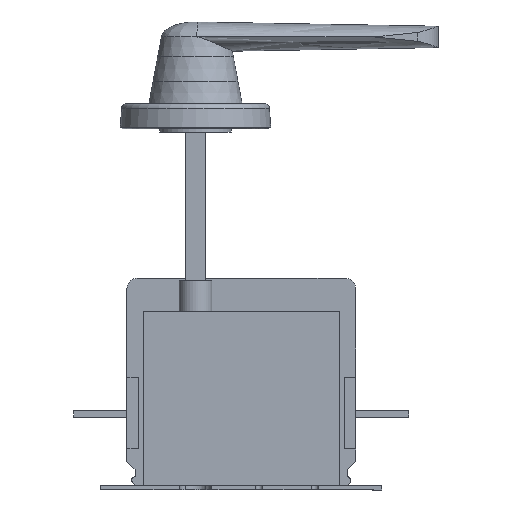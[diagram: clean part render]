
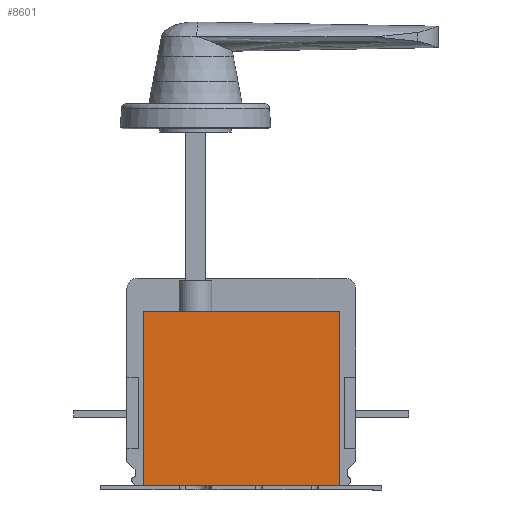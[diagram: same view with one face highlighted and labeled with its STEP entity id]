
A CAD part, left-side view. The second image highlights one B-rep face of the part: STEP entity #8601.
In plain terms, the highlighted planar face has unit normal (-1, 0, 0).
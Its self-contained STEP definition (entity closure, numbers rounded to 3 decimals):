
#1188 = CARTESIAN_POINT ( 'NONE',  ( -104.49, 0., 130.1 ) ) ;
#1228 = LINE ( 'NONE', #1234, #8989 ) ;
#1234 = CARTESIAN_POINT ( 'NONE',  ( -104.49, -60., 130.1 ) ) ;
#1637 = FACE_OUTER_BOUND ( 'NONE', #10028, .T. ) ;
#1818 = ORIENTED_EDGE ( 'NONE', *, *, #2256, .T. ) ;
#1844 = ORIENTED_EDGE ( 'NONE', *, *, #15056, .T. ) ;
#2256 = EDGE_CURVE ( 'NONE', #7076, #9198, #7930, .T. ) ;
#3324 = LINE ( 'NONE', #10356, #15395 ) ;
#3430 = VECTOR ( 'NONE', #10616, 1000. ) ;
#4479 = CARTESIAN_POINT ( 'NONE',  ( -104.49, 60., 110. ) ) ;
#5048 = DIRECTION ( 'NONE',  ( -1., 0., 0. ) ) ;
#5610 = EDGE_CURVE ( 'NONE', #8306, #7076, #9273, .T. ) ;
#6276 = CARTESIAN_POINT ( 'NONE',  ( -104.49, -60., 3.1 ) ) ;
#7076 = VERTEX_POINT ( 'NONE', #8346 ) ;
#7881 = DIRECTION ( 'NONE',  ( 0., -1., 0. ) ) ;
#7930 = LINE ( 'NONE', #10229, #15591 ) ;
#8306 = VERTEX_POINT ( 'NONE', #4479 ) ;
#8346 = CARTESIAN_POINT ( 'NONE',  ( -104.49, 60., 3.1 ) ) ;
#8601 = ADVANCED_FACE ( 'NONE', ( #1637 ), #14486, .T. ) ;
#8989 = VECTOR ( 'NONE', #10618, 1000. ) ;
#9161 = ORIENTED_EDGE ( 'NONE', *, *, #5610, .T. ) ;
#9198 = VERTEX_POINT ( 'NONE', #6276 ) ;
#9263 = CARTESIAN_POINT ( 'NONE',  ( -104.49, 60., 130.1 ) ) ;
#9273 = LINE ( 'NONE', #9263, #3430 ) ;
#9509 = AXIS2_PLACEMENT_3D ( 'NONE', #1188, #5048, #10690 ) ;
#9548 = ORIENTED_EDGE ( 'NONE', *, *, #13950, .F. ) ;
#10028 = EDGE_LOOP ( 'NONE', ( #9548, #1844, #9161, #1818 ) ) ;
#10229 = CARTESIAN_POINT ( 'NONE',  ( -104.49, 0., 3.1 ) ) ;
#10356 = CARTESIAN_POINT ( 'NONE',  ( -104.49, -102.5, 110. ) ) ;
#10616 = DIRECTION ( 'NONE',  ( 0., 0., -1. ) ) ;
#10618 = DIRECTION ( 'NONE',  ( 0., 0., -1. ) ) ;
#10690 = DIRECTION ( 'NONE',  ( 0., -1., 0. ) ) ;
#11850 = DIRECTION ( 'NONE',  ( 0., 1., 0. ) ) ;
#13517 = VERTEX_POINT ( 'NONE', #16389 ) ;
#13950 = EDGE_CURVE ( 'NONE', #13517, #9198, #1228, .T. ) ;
#14486 = PLANE ( 'NONE',  #9509 ) ;
#15056 = EDGE_CURVE ( 'NONE', #13517, #8306, #3324, .T. ) ;
#15395 = VECTOR ( 'NONE', #11850, 1000. ) ;
#15591 = VECTOR ( 'NONE', #7881, 1000. ) ;
#16389 = CARTESIAN_POINT ( 'NONE',  ( -104.49, -60., 110. ) ) ;
